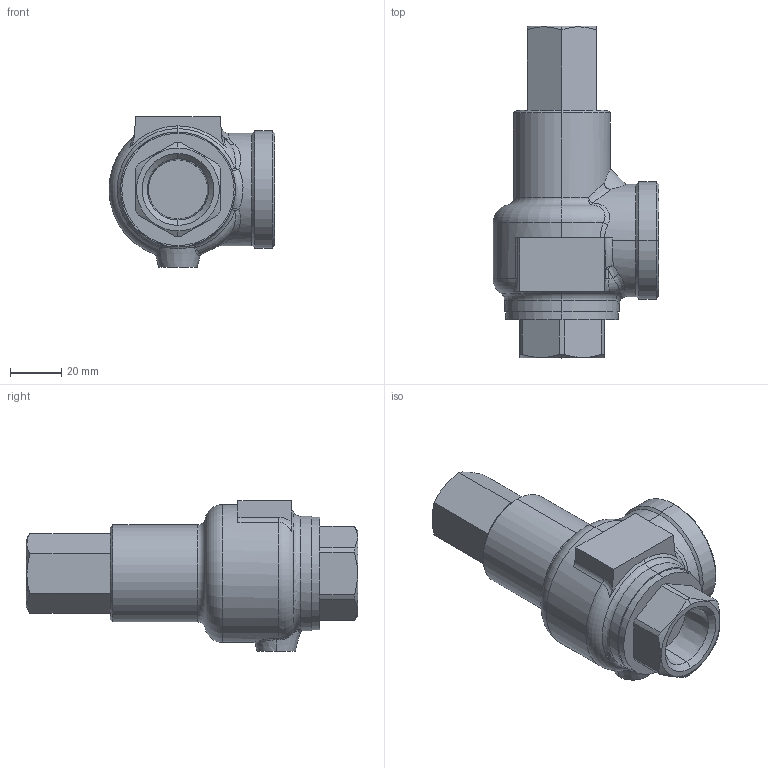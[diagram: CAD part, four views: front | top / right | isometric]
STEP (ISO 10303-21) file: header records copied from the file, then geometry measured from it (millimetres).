
FILE_DESCRIPTION (( 'STEP AP203' ), '1' );
FILE_NAME ('AL-140H 20A.STEP', '2026-01-08T05:34:29', ( '' ), ( '' ), 'SwSTEP 2.0', 'SolidWorks 2024', '' );
FILE_SCHEMA (( 'CONFIG_CONTROL_DESIGN' ));
Length unit declared in the file: millimetre
Products named in the file (1): AL-140H 20A
Bounding box: 65 x 130 x 59 mm (x, y, z)
Volume: 182848.4 mm3; surface area: 24836.5 mm2
Topology: 1 solids, 1 shells, 106 faces, 247 edges, 148 vertices
Faces by surface type: plane 26, cylinder 24, cone 20, bspline 19, torus 12, sphere 5
Entity records: 4635 total; most frequent: CARTESIAN_POINT 2269, ORIENTED_EDGE 494, DIRECTION 466, EDGE_CURVE 247, AXIS2_PLACEMENT_3D 195, VERTEX_POINT 148, EDGE_LOOP 111, CIRCLE 107
